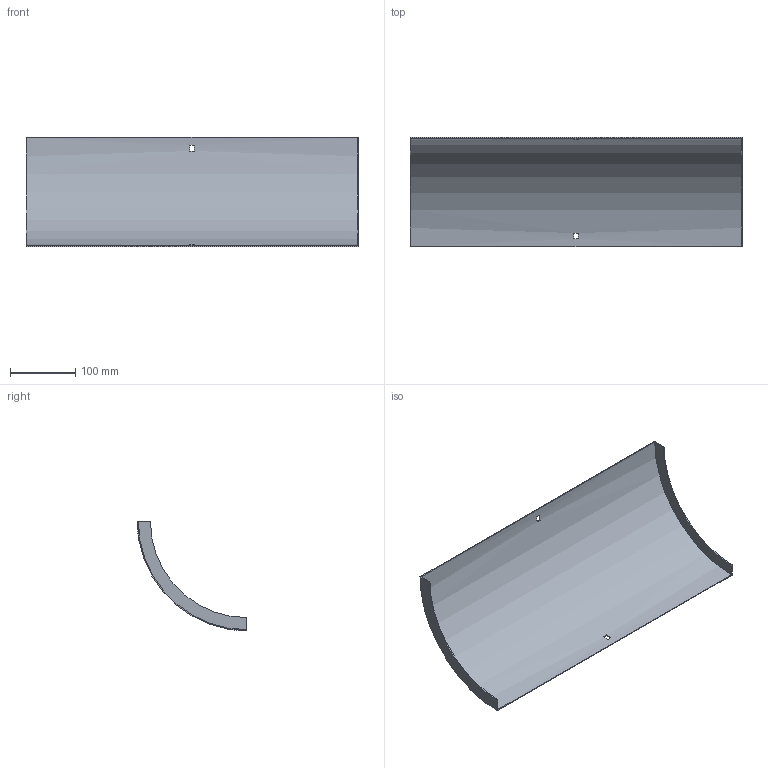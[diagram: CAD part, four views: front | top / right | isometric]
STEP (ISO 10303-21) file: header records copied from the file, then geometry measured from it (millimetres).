
FILE_DESCRIPTION (( 'STEP AP214' ), '1' );
FILE_NAME ('33N1H500.step', '2025-02-21T09:18:47', ( '' ), ( '' ), 'SwSTEP 2.0', 'SolidWorks 2023', '' );
FILE_SCHEMA (( 'AUTOMOTIVE_DESIGN' ));
Length unit declared in the file: millimetre
Products named in the file (1): 33N1H500
Bounding box: 507 x 167 x 167 mm (x, y, z)
Volume: 212046 mm3; surface area: 285149.8 mm2
Topology: 1 solids, 1 shells, 18 faces, 48 edges, 32 vertices
Faces by surface type: plane 14, cylinder 4
Entity records: 599 total; most frequent: DIRECTION 102, CARTESIAN_POINT 99, ORIENTED_EDGE 96, EDGE_CURVE 48, AXIS2_PLACEMENT_3D 35, VERTEX_POINT 32, LINE 32, VECTOR 32
